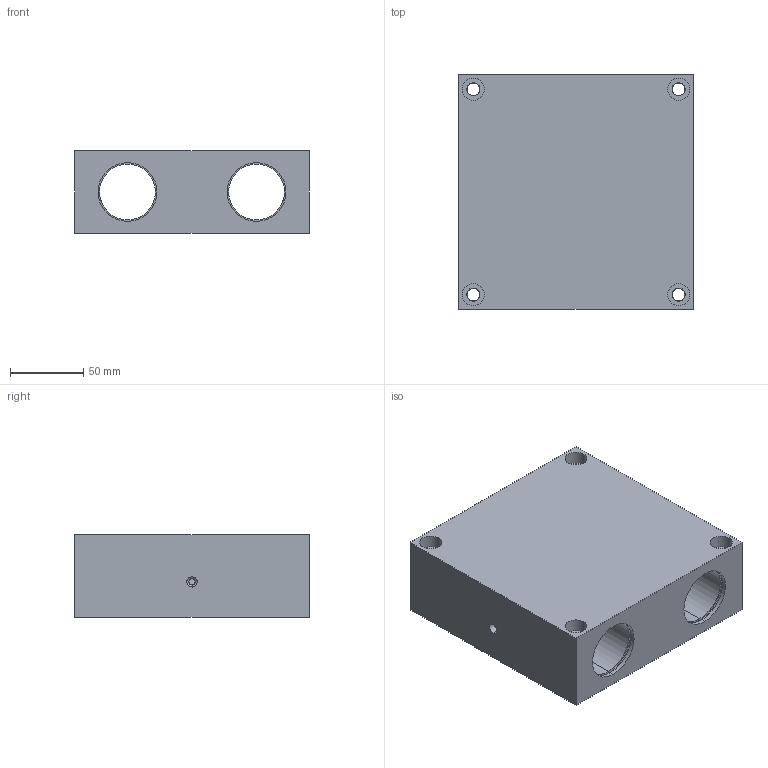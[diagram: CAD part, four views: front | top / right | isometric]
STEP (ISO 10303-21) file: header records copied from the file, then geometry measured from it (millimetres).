
FILE_DESCRIPTION (( 'STEP AP214' ), '1' );
FILE_NAME ('KQSG-25.step', '2020-03-04T13:34:24', ( '' ), ( '' ), 'SwSTEP 2.0', 'SolidWorks 2019', '' );
FILE_SCHEMA (( 'AUTOMOTIVE_DESIGN' ));
Length unit declared in the file: millimetre
Products named in the file (1): KQSG-25
Bounding box: 160 x 160 x 56 mm (x, y, z)
Volume: 1019826 mm3; surface area: 130710.4 mm2
Topology: 1 solids, 1 shells, 96 faces, 210 edges, 135 vertices
Faces by surface type: cylinder 62, plane 26, cone 8
Entity records: 3062 total; most frequent: CARTESIAN_POINT 558, DIRECTION 520, ORIENTED_EDGE 416, AXIS2_PLACEMENT_3D 219, EDGE_CURVE 208, VERTEX_POINT 135, EDGE_LOOP 133, CIRCLE 122
